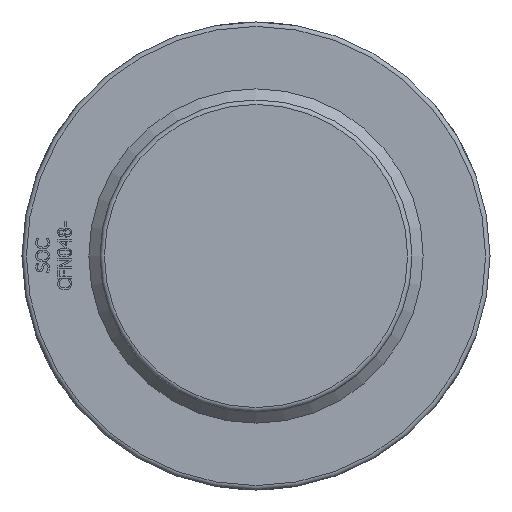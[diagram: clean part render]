
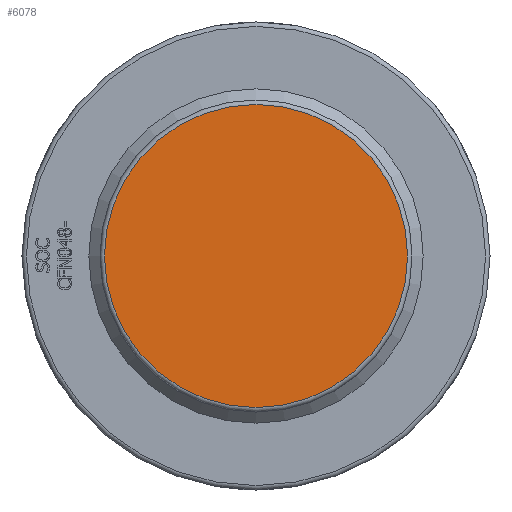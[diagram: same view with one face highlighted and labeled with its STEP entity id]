
A CAD part, front view. The second image highlights one B-rep face of the part: STEP entity #6078.
In plain terms, the highlighted planar face has unit normal (0, -1, 0) as drawn and (0, 1, 0) by its records, which use the part's own axes.
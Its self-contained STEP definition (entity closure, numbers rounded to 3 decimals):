
#51=CIRCLE('',#6386,68.);
#193=PLANE('',#6388);
#426=FACE_OUTER_BOUND('',#790,.T.);
#790=EDGE_LOOP('',(#4794));
#2694=VERTEX_POINT('',#9481);
#3454=EDGE_CURVE('',#2694,#2694,#51,.T.);
#4794=ORIENTED_EDGE('',*,*,#3454,.F.);
#6078=ADVANCED_FACE('',(#426),#193,.T.);
#6386=AXIS2_PLACEMENT_3D('',#9482,#6897,#6898);
#6388=AXIS2_PLACEMENT_3D('',#9485,#6901,#6902);
#6897=DIRECTION('center_axis',(0.,-1.,0.));
#6898=DIRECTION('ref_axis',(-1.,0.,0.));
#6901=DIRECTION('center_axis',(0.,1.,0.));
#6902=DIRECTION('ref_axis',(0.,0.,1.));
#9481=CARTESIAN_POINT('',(68.,126.,0.));
#9482=CARTESIAN_POINT('Origin',(0.,126.,0.));
#9485=CARTESIAN_POINT('Origin',(70.,126.,0.));
